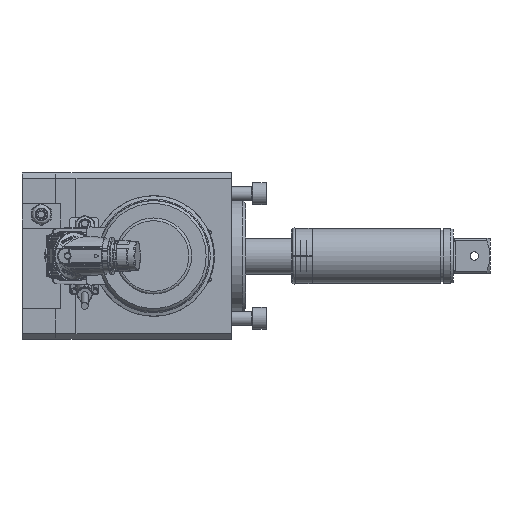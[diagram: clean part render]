
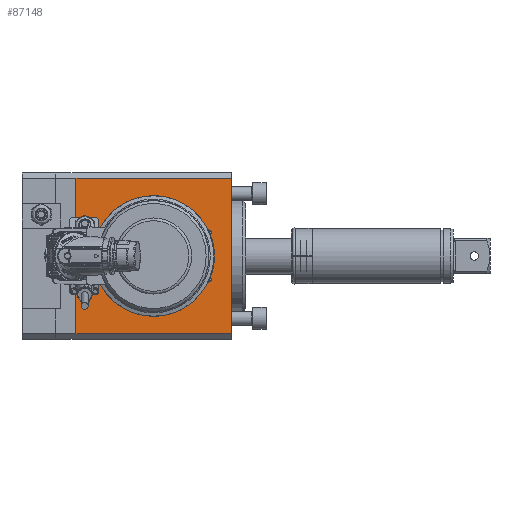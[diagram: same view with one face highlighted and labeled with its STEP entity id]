
A CAD part, left-side view. The second image highlights one B-rep face of the part: STEP entity #87148.
In plain terms, the highlighted planar face has unit normal (-1, 0, 0).
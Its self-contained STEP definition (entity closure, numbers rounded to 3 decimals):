
#1714 = DIRECTION ( 'NONE',  ( -1., 0., 0. ) ) ;
#2605 = CARTESIAN_POINT ( 'NONE',  ( -102.5, 112.5, 56. ) ) ;
#5873 = CARTESIAN_POINT ( 'NONE',  ( -102.5, 112.5, 56. ) ) ;
#8184 = CARTESIAN_POINT ( 'NONE',  ( -102.5, 112.5, -56. ) ) ;
#12268 = VECTOR ( 'NONE', #55392, 1000. ) ;
#12372 = LINE ( 'NONE', #5873, #12268 ) ;
#12404 = EDGE_CURVE ( 'NONE', #59015, #49369, #52794, .T. ) ;
#13252 = VERTEX_POINT ( 'NONE', #2605 ) ;
#14777 = EDGE_LOOP ( 'NONE', ( #49439, #47493, #60696, #92143 ) ) ;
#19784 = CARTESIAN_POINT ( 'NONE',  ( -102.5, 56.5, 43.5 ) ) ;
#23330 = CARTESIAN_POINT ( 'NONE',  ( -102.5, 0.5, -56. ) ) ;
#23825 = VECTOR ( 'NONE', #39266, 1000. ) ;
#23896 = CARTESIAN_POINT ( 'NONE',  ( -102.5, 0.5, 56. ) ) ;
#24096 = LINE ( 'NONE', #80851, #23825 ) ;
#36258 = FACE_OUTER_BOUND ( 'NONE', #14777, .T. ) ;
#36799 = DIRECTION ( 'NONE',  ( 1., 0., 0. ) ) ;
#37181 = EDGE_CURVE ( 'NONE', #13252, #59015, #24096, .T. ) ;
#37832 = EDGE_CURVE ( 'NONE', #58490, #13252, #12372, .T. ) ;
#38403 = ORIENTED_EDGE ( 'NONE', *, *, #86678, .T. ) ;
#39266 = DIRECTION ( 'NONE',  ( 0., -1., 0. ) ) ;
#42300 = AXIS2_PLACEMENT_3D ( 'NONE', #86755, #36799, #95103 ) ;
#43714 = AXIS2_PLACEMENT_3D ( 'NONE', #67600, #1714, #59530 ) ;
#45802 = DIRECTION ( 'NONE',  ( 0., 1., 0. ) ) ;
#47493 = ORIENTED_EDGE ( 'NONE', *, *, #37181, .F. ) ;
#49369 = VERTEX_POINT ( 'NONE', #101639 ) ;
#49439 = ORIENTED_EDGE ( 'NONE', *, *, #12404, .F. ) ;
#51486 = EDGE_LOOP ( 'NONE', ( #38403 ) ) ;
#52794 = LINE ( 'NONE', #106546, #53336 ) ;
#53336 = VECTOR ( 'NONE', #56493, 1000. ) ;
#55392 = DIRECTION ( 'NONE',  ( 0., 0., 1. ) ) ;
#56493 = DIRECTION ( 'NONE',  ( 0., 0., -1. ) ) ;
#58490 = VERTEX_POINT ( 'NONE', #8184 ) ;
#59015 = VERTEX_POINT ( 'NONE', #23896 ) ;
#59530 = DIRECTION ( 'NONE',  ( 0., 0., 1. ) ) ;
#60696 = ORIENTED_EDGE ( 'NONE', *, *, #37832, .F. ) ;
#67600 = CARTESIAN_POINT ( 'NONE',  ( -102.5, 56.5, 0. ) ) ;
#75025 = VERTEX_POINT ( 'NONE', #19784 ) ;
#76476 = VECTOR ( 'NONE', #45802, 1000. ) ;
#77268 = LINE ( 'NONE', #23330, #76476 ) ;
#80851 = CARTESIAN_POINT ( 'NONE',  ( -102.5, 0.5, 56. ) ) ;
#86678 = EDGE_CURVE ( 'NONE', #75025, #75025, #107690, .T. ) ;
#86755 = CARTESIAN_POINT ( 'NONE',  ( -102.5, 56.5, 0. ) ) ;
#87148 = ADVANCED_FACE ( 'NONE', ( #36258, #97067 ), #101195, .T. ) ;
#92143 = ORIENTED_EDGE ( 'NONE', *, *, #104112, .F. ) ;
#95103 = DIRECTION ( 'NONE',  ( 0., 0., 1. ) ) ;
#97067 = FACE_BOUND ( 'NONE', #51486, .T. ) ;
#101195 = PLANE ( 'NONE',  #43714 ) ;
#101639 = CARTESIAN_POINT ( 'NONE',  ( -102.5, 0.5, -56. ) ) ;
#104112 = EDGE_CURVE ( 'NONE', #49369, #58490, #77268, .T. ) ;
#106546 = CARTESIAN_POINT ( 'NONE',  ( -102.5, 0.5, 56. ) ) ;
#107690 = CIRCLE ( 'NONE', #42300, 43.5 ) ;
